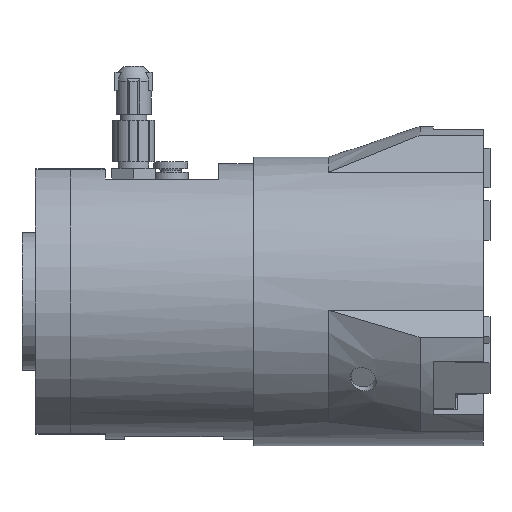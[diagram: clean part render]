
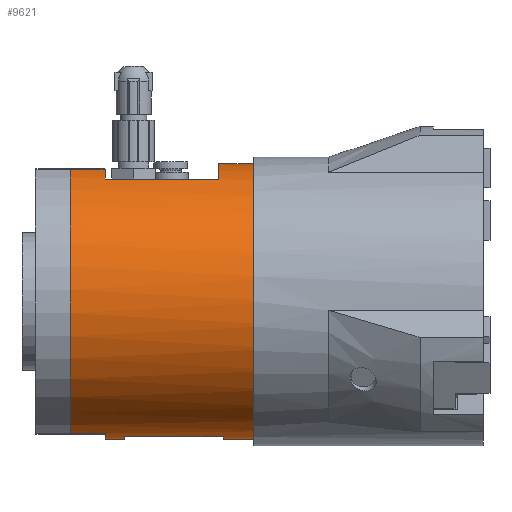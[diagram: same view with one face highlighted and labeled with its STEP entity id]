
A CAD part, left-side view. The second image highlights one B-rep face of the part: STEP entity #9621.
In plain terms, the highlighted cylindrical face has radius 31.5 mm (diameter 63 mm), a full revolution.
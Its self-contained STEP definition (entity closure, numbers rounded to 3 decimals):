
#128=B_SPLINE_CURVE_WITH_KNOTS('',3,(#14387,#14388,#14389,#14390,#14391,
#14392,#14393,#14394,#14395),.UNSPECIFIED.,.F.,.F.,(4,1,1,1,1,1,4),(0.006,
0.01,0.014,0.016,0.018,
0.02,0.022),.UNSPECIFIED.);
#129=B_SPLINE_CURVE_WITH_KNOTS('',3,(#14399,#14400,#14401,#14402,#14403,
#14404,#14405,#14406,#14407),.UNSPECIFIED.,.F.,.F.,(4,1,1,1,1,1,4),(0.,
0.002,0.004,0.006,0.008,
0.012,0.016),.UNSPECIFIED.);
#203=CYLINDRICAL_SURFACE('',#10339,31.5);
#336=CIRCLE('',#10281,31.5);
#340=CIRCLE('',#10286,31.5);
#374=CIRCLE('',#10340,31.5);
#375=CIRCLE('',#10341,31.5);
#376=CIRCLE('',#10342,31.5);
#377=CIRCLE('',#10343,31.5);
#378=CIRCLE('',#10344,31.5);
#379=CIRCLE('',#10345,31.5);
#380=CIRCLE('',#10346,31.5);
#839=ORIENTED_EDGE('',*,*,#3506,.F.);
#840=ORIENTED_EDGE('',*,*,#3612,.T.);
#841=ORIENTED_EDGE('',*,*,#3523,.T.);
#842=ORIENTED_EDGE('',*,*,#3518,.T.);
#843=ORIENTED_EDGE('',*,*,#3613,.T.);
#844=ORIENTED_EDGE('',*,*,#3597,.F.);
#845=ORIENTED_EDGE('',*,*,#3614,.T.);
#846=ORIENTED_EDGE('',*,*,#3615,.T.);
#847=ORIENTED_EDGE('',*,*,#3616,.T.);
#848=ORIENTED_EDGE('',*,*,#3603,.F.);
#849=ORIENTED_EDGE('',*,*,#3617,.F.);
#850=ORIENTED_EDGE('',*,*,#3601,.F.);
#851=ORIENTED_EDGE('',*,*,#3618,.F.);
#852=ORIENTED_EDGE('',*,*,#3619,.F.);
#853=ORIENTED_EDGE('',*,*,#3620,.T.);
#854=ORIENTED_EDGE('',*,*,#3621,.F.);
#855=ORIENTED_EDGE('',*,*,#3622,.F.);
#856=ORIENTED_EDGE('',*,*,#3623,.T.);
#857=ORIENTED_EDGE('',*,*,#3624,.T.);
#858=ORIENTED_EDGE('',*,*,#3625,.T.);
#859=ORIENTED_EDGE('',*,*,#3626,.F.);
#3506=EDGE_CURVE('',#4899,#4899,#336,.T.);
#3518=EDGE_CURVE('',#4912,#4911,#340,.T.);
#3523=EDGE_CURVE('',#4916,#4912,#5878,.T.);
#3597=EDGE_CURVE('',#4976,#4978,#5920,.F.);
#3601=EDGE_CURVE('',#4981,#4982,#5924,.T.);
#3603=EDGE_CURVE('',#4983,#4984,#5926,.F.);
#3612=EDGE_CURVE('',#4992,#4916,#374,.T.);
#3613=EDGE_CURVE('',#4911,#4992,#5934,.F.);
#3614=EDGE_CURVE('',#4976,#4993,#128,.T.);
#3615=EDGE_CURVE('',#4993,#4994,#5935,.T.);
#3616=EDGE_CURVE('',#4994,#4984,#129,.T.);
#3617=EDGE_CURVE('',#4982,#4983,#375,.T.);
#3618=EDGE_CURVE('',#4995,#4981,#376,.T.);
#3619=EDGE_CURVE('',#4996,#4995,#5936,.T.);
#3620=EDGE_CURVE('',#4996,#4997,#377,.T.);
#3621=EDGE_CURVE('',#4998,#4997,#5937,.F.);
#3622=EDGE_CURVE('',#4999,#4998,#378,.T.);
#3623=EDGE_CURVE('',#4999,#5000,#5938,.F.);
#3624=EDGE_CURVE('',#5000,#5001,#379,.T.);
#3625=EDGE_CURVE('',#5001,#5002,#5939,.T.);
#3626=EDGE_CURVE('',#4978,#5002,#380,.T.);
#4899=VERTEX_POINT('',#14165);
#4911=VERTEX_POINT('',#14189);
#4912=VERTEX_POINT('',#14191);
#4916=VERTEX_POINT('',#14201);
#4976=VERTEX_POINT('',#14352);
#4978=VERTEX_POINT('',#14355);
#4981=VERTEX_POINT('',#14361);
#4982=VERTEX_POINT('',#14363);
#4983=VERTEX_POINT('',#14365);
#4984=VERTEX_POINT('',#14367);
#4992=VERTEX_POINT('',#14385);
#4993=VERTEX_POINT('',#14396);
#4994=VERTEX_POINT('',#14398);
#4995=VERTEX_POINT('',#14410);
#4996=VERTEX_POINT('',#14412);
#4997=VERTEX_POINT('',#14414);
#4998=VERTEX_POINT('',#14416);
#4999=VERTEX_POINT('',#14418);
#5000=VERTEX_POINT('',#14420);
#5001=VERTEX_POINT('',#14422);
#5002=VERTEX_POINT('',#14424);
#5878=LINE('',#14200,#6823);
#5920=LINE('',#14354,#6865);
#5924=LINE('',#14362,#6869);
#5926=LINE('',#14366,#6871);
#5934=LINE('',#14386,#6879);
#5935=LINE('',#14397,#6880);
#5936=LINE('',#14411,#6881);
#5937=LINE('',#14415,#6882);
#5938=LINE('',#14419,#6883);
#5939=LINE('',#14423,#6884);
#6823=VECTOR('',#11290,1000.);
#6865=VECTOR('',#11432,1000.);
#6869=VECTOR('',#11436,1000.);
#6871=VECTOR('',#11438,1000.);
#6879=VECTOR('',#11452,1000.);
#6880=VECTOR('',#11453,1000.);
#6881=VECTOR('',#11458,1000.);
#6882=VECTOR('',#11461,1000.);
#6883=VECTOR('',#11464,1000.);
#6884=VECTOR('',#11467,1000.);
#7781=EDGE_LOOP('',(#839));
#7782=EDGE_LOOP('',(#840,#841,#842,#843));
#7783=EDGE_LOOP('',(#844,#845,#846,#847,#848,#849,#850,#851,#852,#853,#854,
#855,#856,#857,#858,#859));
#8503=FACE_BOUND('',#7781,.T.);
#8504=FACE_BOUND('',#7782,.T.);
#8505=FACE_BOUND('',#7783,.T.);
#9621=ADVANCED_FACE('',(#8503,#8504,#8505),#203,.T.);
#10281=AXIS2_PLACEMENT_3D('',#14164,#11264,#11265);
#10286=AXIS2_PLACEMENT_3D('',#14190,#11282,#11283);
#10339=AXIS2_PLACEMENT_3D('',#14383,#11448,#11449);
#10340=AXIS2_PLACEMENT_3D('',#14384,#11450,#11451);
#10341=AXIS2_PLACEMENT_3D('',#14408,#11454,#11455);
#10342=AXIS2_PLACEMENT_3D('',#14409,#11456,#11457);
#10343=AXIS2_PLACEMENT_3D('',#14413,#11459,#11460);
#10344=AXIS2_PLACEMENT_3D('',#14417,#11462,#11463);
#10345=AXIS2_PLACEMENT_3D('',#14421,#11465,#11466);
#10346=AXIS2_PLACEMENT_3D('',#14425,#11468,#11469);
#11264=DIRECTION('',(0.,-1.,0.));
#11265=DIRECTION('',(0.,0.,-1.));
#11282=DIRECTION('',(0.,-1.,0.));
#11283=DIRECTION('',(0.,0.,-1.));
#11290=DIRECTION('',(0.,-1.,0.));
#11432=DIRECTION('',(0.,-1.,0.));
#11436=DIRECTION('',(0.,-1.,0.));
#11438=DIRECTION('',(0.,-1.,0.));
#11448=DIRECTION('',(0.,-1.,0.));
#11449=DIRECTION('',(0.,0.,-1.));
#11450=DIRECTION('',(0.,1.,0.));
#11451=DIRECTION('',(-1.,0.,0.));
#11452=DIRECTION('',(0.,-1.,0.));
#11453=DIRECTION('',(0.,-1.,0.));
#11454=DIRECTION('',(0.,1.,0.));
#11455=DIRECTION('',(0.,0.,1.));
#11456=DIRECTION('',(0.,-1.,0.));
#11457=DIRECTION('',(0.,0.,-1.));
#11458=DIRECTION('',(0.,-1.,0.));
#11459=DIRECTION('',(0.,-1.,0.));
#11460=DIRECTION('',(0.,0.,-1.));
#11461=DIRECTION('',(0.,-1.,0.));
#11462=DIRECTION('',(0.,1.,0.));
#11463=DIRECTION('',(0.,0.,1.));
#11464=DIRECTION('',(0.,-1.,0.));
#11465=DIRECTION('',(0.,-1.,0.));
#11466=DIRECTION('',(0.,0.,-1.));
#11467=DIRECTION('',(0.,-1.,0.));
#11468=DIRECTION('',(0.,-1.,0.));
#11469=DIRECTION('',(0.,0.,-1.));
#14164=CARTESIAN_POINT('',(0.,-49.,0.));
#14165=CARTESIAN_POINT('',(0.,-49.,-31.5));
#14189=CARTESIAN_POINT('',(31.305,-35.,-3.5));
#14190=CARTESIAN_POINT('',(0.,-35.,0.));
#14191=CARTESIAN_POINT('',(-6.,-35.,-30.923));
#14200=CARTESIAN_POINT('',(-6.,-49.,-30.923));
#14201=CARTESIAN_POINT('',(-6.,-12.4,-30.923));
#14352=CARTESIAN_POINT('',(14.431,-12.369,28.));
#14354=CARTESIAN_POINT('',(14.431,-49.,28.));
#14355=CARTESIAN_POINT('',(14.431,-8.,28.));
#14361=CARTESIAN_POINT('',(-14.431,-8.,28.));
#14362=CARTESIAN_POINT('',(-14.431,-49.,28.));
#14363=CARTESIAN_POINT('',(-14.431,-34.,28.));
#14365=CARTESIAN_POINT('',(14.431,-34.,28.));
#14366=CARTESIAN_POINT('',(14.431,-49.,28.));
#14367=CARTESIAN_POINT('',(14.431,-33.631,28.));
#14383=CARTESIAN_POINT('',(0.,-49.,0.));
#14384=CARTESIAN_POINT('',(0.,-12.4,0.));
#14385=CARTESIAN_POINT('',(31.305,-12.4,-3.5));
#14386=CARTESIAN_POINT('',(31.305,-49.,-3.5));
#14387=CARTESIAN_POINT('',(14.431,-12.369,28.));
#14388=CARTESIAN_POINT('',(15.439,-11.668,27.48));
#14389=CARTESIAN_POINT('',(17.722,-10.965,26.151));
#14390=CARTESIAN_POINT('',(20.362,-11.553,24.09));
#14391=CARTESIAN_POINT('',(22.107,-12.701,22.461));
#14392=CARTESIAN_POINT('',(23.212,-13.914,21.311));
#14393=CARTESIAN_POINT('',(24.027,-15.518,20.377));
#14394=CARTESIAN_POINT('',(24.25,-16.827,20.104));
#14395=CARTESIAN_POINT('',(24.25,-17.5,20.104));
#14396=CARTESIAN_POINT('',(24.25,-17.5,20.104));
#14397=CARTESIAN_POINT('',(24.25,-49.,20.104));
#14398=CARTESIAN_POINT('',(24.25,-28.5,20.104));
#14399=CARTESIAN_POINT('',(24.25,-28.5,20.104));
#14400=CARTESIAN_POINT('',(24.25,-29.174,20.104));
#14401=CARTESIAN_POINT('',(24.027,-30.482,20.377));
#14402=CARTESIAN_POINT('',(23.21,-32.09,21.314));
#14403=CARTESIAN_POINT('',(22.104,-33.302,22.464));
#14404=CARTESIAN_POINT('',(20.354,-34.449,24.097));
#14405=CARTESIAN_POINT('',(17.737,-35.038,26.141));
#14406=CARTESIAN_POINT('',(15.429,-34.325,27.486));
#14407=CARTESIAN_POINT('',(14.431,-33.631,28.));
#14408=CARTESIAN_POINT('',(0.,-34.,0.));
#14409=CARTESIAN_POINT('',(0.,-8.,0.));
#14410=CARTESIAN_POINT('',(-9.,-8.,30.187));
#14411=CARTESIAN_POINT('',(-9.,-49.,30.187));
#14412=CARTESIAN_POINT('',(-9.,0.,30.187));
#14413=CARTESIAN_POINT('',(0.,0.,0.));
#14414=CARTESIAN_POINT('',(-9.,0.,-30.187));
#14415=CARTESIAN_POINT('',(-9.,-49.,-30.187));
#14416=CARTESIAN_POINT('',(-9.,-8.,-30.187));
#14417=CARTESIAN_POINT('',(0.,-8.,0.));
#14418=CARTESIAN_POINT('',(9.,-8.,-30.187));
#14419=CARTESIAN_POINT('',(9.,-49.,-30.187));
#14420=CARTESIAN_POINT('',(9.,0.,-30.187));
#14421=CARTESIAN_POINT('',(0.,0.,0.));
#14422=CARTESIAN_POINT('',(9.,0.,30.187));
#14423=CARTESIAN_POINT('',(9.,-49.,30.187));
#14424=CARTESIAN_POINT('',(9.,-8.,30.187));
#14425=CARTESIAN_POINT('',(0.,-8.,0.));
